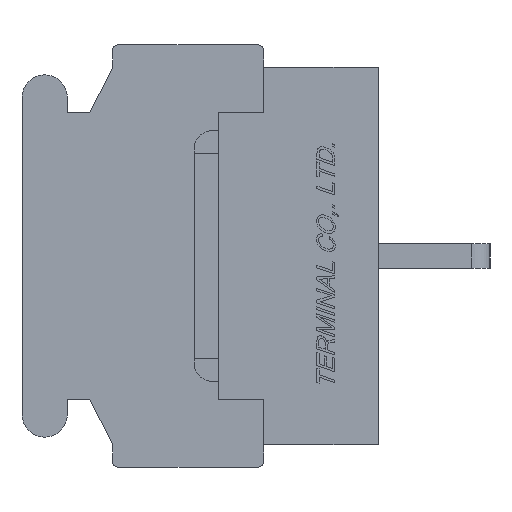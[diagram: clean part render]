
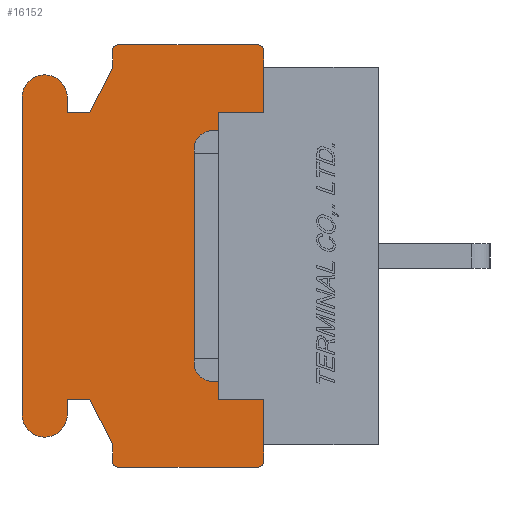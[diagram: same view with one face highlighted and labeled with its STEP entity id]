
A CAD part, left-side view. The second image highlights one B-rep face of the part: STEP entity #16152.
In plain terms, the highlighted planar face has unit normal (-1, 0, 0).
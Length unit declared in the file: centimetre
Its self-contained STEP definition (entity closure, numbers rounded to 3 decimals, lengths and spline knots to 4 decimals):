
#862=PLANE('',#26193);
#1755=VECTOR('',#17614,1.);
#2150=VECTOR('',#18142,1.);
#2153=VECTOR('',#18146,1.);
#2155=VECTOR('',#18149,1.);
#2156=VECTOR('',#18151,1.);
#2157=VECTOR('',#18153,1.);
#2158=VECTOR('',#18156,1.);
#2159=VECTOR('',#18159,1.);
#2160=VECTOR('',#18160,1.);
#2161=VECTOR('',#18161,1.);
#2162=VECTOR('',#18162,1.);
#2163=VECTOR('',#18165,1.);
#2164=VECTOR('',#18168,1.);
#2165=VECTOR('',#18169,1.);
#2166=VECTOR('',#18170,1.);
#2167=VECTOR('',#18171,1.);
#2168=VECTOR('',#18174,1.);
#2169=VECTOR('',#18177,1.);
#3543=LINE('',#21956,#1755);
#3938=LINE('',#23441,#2150);
#3941=LINE('',#23447,#2153);
#3943=LINE('',#23451,#2155);
#3944=LINE('',#23453,#2156);
#3945=LINE('',#23455,#2157);
#3946=LINE('',#23459,#2158);
#3947=LINE('',#23463,#2159);
#3948=LINE('',#23465,#2160);
#3949=LINE('',#23467,#2161);
#3950=LINE('',#23469,#2162);
#3951=LINE('',#23473,#2163);
#3952=LINE('',#23477,#2164);
#3953=LINE('',#23479,#2165);
#3954=LINE('',#23481,#2166);
#3955=LINE('',#23483,#2167);
#3956=LINE('',#23487,#2168);
#3957=LINE('',#23491,#2169);
#5270=VERTEX_POINT('',#21955);
#5271=VERTEX_POINT('',#21957);
#5605=VERTEX_POINT('',#23440);
#5606=VERTEX_POINT('',#23442);
#5607=VERTEX_POINT('',#23446);
#5608=VERTEX_POINT('',#23448);
#5609=VERTEX_POINT('',#23456);
#5610=VERTEX_POINT('',#23458);
#5611=VERTEX_POINT('',#23460);
#5612=VERTEX_POINT('',#23462);
#5613=VERTEX_POINT('',#23464);
#5614=VERTEX_POINT('',#23466);
#5615=VERTEX_POINT('',#23468);
#5616=VERTEX_POINT('',#23470);
#5617=VERTEX_POINT('',#23472);
#5618=VERTEX_POINT('',#23474);
#5619=VERTEX_POINT('',#23476);
#5620=VERTEX_POINT('',#23478);
#5621=VERTEX_POINT('',#23480);
#5622=VERTEX_POINT('',#23482);
#5623=VERTEX_POINT('',#23484);
#5624=VERTEX_POINT('',#23486);
#5625=VERTEX_POINT('',#23488);
#5626=VERTEX_POINT('',#23490);
#6373=CIRCLE('',#26194,0.02);
#6374=CIRCLE('',#26195,0.02);
#6375=CIRCLE('',#26196,0.075);
#6376=CIRCLE('',#26197,0.075);
#6377=CIRCLE('',#26198,0.02);
#6378=CIRCLE('',#26199,0.02);
#7364=EDGE_CURVE('',#5271,#5270,#3543,.T.);
#7865=EDGE_CURVE('',#5606,#5605,#3938,.T.);
#7868=EDGE_CURVE('',#5608,#5607,#3941,.T.);
#7870=EDGE_CURVE('',#5607,#5271,#3943,.T.);
#7871=EDGE_CURVE('',#5270,#5606,#3944,.T.);
#7872=EDGE_CURVE('',#5609,#5605,#3945,.T.);
#7873=EDGE_CURVE('',#5610,#5609,#6373,.T.);
#7874=EDGE_CURVE('',#5611,#5610,#3946,.T.);
#7875=EDGE_CURVE('',#5612,#5611,#6374,.T.);
#7876=EDGE_CURVE('',#5613,#5612,#3947,.T.);
#7877=EDGE_CURVE('',#5614,#5613,#3948,.T.);
#7878=EDGE_CURVE('',#5615,#5614,#3949,.T.);
#7879=EDGE_CURVE('',#5616,#5615,#3950,.T.);
#7880=EDGE_CURVE('',#5617,#5616,#6375,.T.);
#7881=EDGE_CURVE('',#5618,#5617,#3951,.T.);
#7882=EDGE_CURVE('',#5619,#5618,#6376,.T.);
#7883=EDGE_CURVE('',#5620,#5619,#3952,.T.);
#7884=EDGE_CURVE('',#5621,#5620,#3953,.T.);
#7885=EDGE_CURVE('',#5622,#5621,#3954,.T.);
#7886=EDGE_CURVE('',#5623,#5622,#3955,.T.);
#7887=EDGE_CURVE('',#5624,#5623,#6377,.T.);
#7888=EDGE_CURVE('',#5625,#5624,#3956,.T.);
#7889=EDGE_CURVE('',#5626,#5625,#6378,.T.);
#7890=EDGE_CURVE('',#5608,#5626,#3957,.T.);
#11529=ORIENTED_EDGE('',*,*,#7868,.T.);
#11530=ORIENTED_EDGE('',*,*,#7870,.T.);
#11531=ORIENTED_EDGE('',*,*,#7364,.T.);
#11532=ORIENTED_EDGE('',*,*,#7871,.T.);
#11533=ORIENTED_EDGE('',*,*,#7865,.T.);
#11534=ORIENTED_EDGE('',*,*,#7872,.F.);
#11535=ORIENTED_EDGE('',*,*,#7873,.F.);
#11536=ORIENTED_EDGE('',*,*,#7874,.F.);
#11537=ORIENTED_EDGE('',*,*,#7875,.F.);
#11538=ORIENTED_EDGE('',*,*,#7876,.F.);
#11539=ORIENTED_EDGE('',*,*,#7877,.F.);
#11540=ORIENTED_EDGE('',*,*,#7878,.F.);
#11541=ORIENTED_EDGE('',*,*,#7879,.F.);
#11542=ORIENTED_EDGE('',*,*,#7880,.F.);
#11543=ORIENTED_EDGE('',*,*,#7881,.F.);
#11544=ORIENTED_EDGE('',*,*,#7882,.F.);
#11545=ORIENTED_EDGE('',*,*,#7883,.F.);
#11546=ORIENTED_EDGE('',*,*,#7884,.F.);
#11547=ORIENTED_EDGE('',*,*,#7885,.F.);
#11548=ORIENTED_EDGE('',*,*,#7886,.F.);
#11549=ORIENTED_EDGE('',*,*,#7887,.F.);
#11550=ORIENTED_EDGE('',*,*,#7888,.F.);
#11551=ORIENTED_EDGE('',*,*,#7889,.F.);
#11552=ORIENTED_EDGE('',*,*,#7890,.F.);
#14264=EDGE_LOOP('',(#11529,#11530,#11531,#11532,#11533,#11534,#11535,#11536,
#11537,#11538,#11539,#11540,#11541,#11542,#11543,#11544,#11545,#11546,#11547,
#11548,#11549,#11550,#11551,#11552));
#15234=FACE_BOUND('',#14264,.T.);
#16152=ADVANCED_FACE('',(#15234),#862,.F.);
#17614=DIRECTION('',(0.,0.,1.));
#18142=DIRECTION('',(0.,0.,1.));
#18146=DIRECTION('',(0.,0.,1.));
#18149=DIRECTION('',(0.,1.,0.));
#18151=DIRECTION('',(0.,-1.,0.));
#18152=DIRECTION('',(1.,0.,0.));
#18153=DIRECTION('',(0.,0.,-1.));
#18154=DIRECTION('',(1.,0.,0.));
#18155=DIRECTION('',(0.,0.,-0.02));
#18156=DIRECTION('',(0.,-1.,0.));
#18157=DIRECTION('',(1.,0.,0.));
#18158=DIRECTION('',(0.,0.,-0.02));
#18159=DIRECTION('',(0.,0.,1.));
#18160=DIRECTION('',(0.,-0.447,0.894));
#18161=DIRECTION('',(0.,-1.,0.));
#18162=DIRECTION('',(0.,0.,-1.));
#18163=DIRECTION('',(1.,0.,0.));
#18164=DIRECTION('',(0.,0.,-0.075));
#18165=DIRECTION('',(0.,0.,1.));
#18166=DIRECTION('',(1.,0.,0.));
#18167=DIRECTION('',(0.,0.,-0.075));
#18168=DIRECTION('',(0.,0.,-1.));
#18169=DIRECTION('',(0.,1.,0.));
#18170=DIRECTION('',(0.,0.447,0.894));
#18171=DIRECTION('',(0.,0.,1.));
#18172=DIRECTION('',(1.,0.,0.));
#18173=DIRECTION('',(0.,0.,-0.02));
#18174=DIRECTION('',(0.,1.,0.));
#18175=DIRECTION('',(1.,0.,0.));
#18176=DIRECTION('',(0.,0.,-0.02));
#18177=DIRECTION('',(0.,0.,-1.));
#21955=CARTESIAN_POINT('',(-0.762,0.53,0.475));
#21956=CARTESIAN_POINT('',(-0.762,0.53,0.));
#21957=CARTESIAN_POINT('',(-0.762,0.53,-0.475));
#23440=CARTESIAN_POINT('',(-0.762,0.38,0.625));
#23441=CARTESIAN_POINT('',(-0.762,0.38,0.275));
#23442=CARTESIAN_POINT('',(-0.762,0.38,0.475));
#23446=CARTESIAN_POINT('',(-0.762,0.38,-0.475));
#23447=CARTESIAN_POINT('',(-0.762,0.38,-0.275));
#23448=CARTESIAN_POINT('',(-0.762,0.38,-0.625));
#23451=CARTESIAN_POINT('',(-0.762,0.5304,-0.475));
#23453=CARTESIAN_POINT('',(-0.762,0.5304,0.475));
#23454=CARTESIAN_POINT('',(-0.762,0.6059,0.));
#23455=CARTESIAN_POINT('',(-0.762,0.38,0.68));
#23456=CARTESIAN_POINT('',(-0.762,0.38,0.68));
#23457=CARTESIAN_POINT('',(-0.762,0.4,0.68));
#23458=CARTESIAN_POINT('',(-0.762,0.4,0.7));
#23459=CARTESIAN_POINT('',(-0.762,0.86,0.7));
#23460=CARTESIAN_POINT('',(-0.762,0.86,0.7));
#23461=CARTESIAN_POINT('',(-0.762,0.86,0.68));
#23462=CARTESIAN_POINT('',(-0.762,0.88,0.68));
#23463=CARTESIAN_POINT('',(-0.762,0.88,0.625));
#23464=CARTESIAN_POINT('',(-0.762,0.88,0.625));
#23465=CARTESIAN_POINT('',(-0.762,0.955,0.475));
#23466=CARTESIAN_POINT('',(-0.762,0.955,0.475));
#23467=CARTESIAN_POINT('',(-0.762,1.03,0.475));
#23468=CARTESIAN_POINT('',(-0.762,1.03,0.475));
#23469=CARTESIAN_POINT('',(-0.762,1.03,0.525));
#23470=CARTESIAN_POINT('',(-0.762,1.03,0.525));
#23471=CARTESIAN_POINT('',(-0.762,1.105,0.525));
#23472=CARTESIAN_POINT('',(-0.762,1.18,0.525));
#23473=CARTESIAN_POINT('',(-0.762,1.18,-0.525));
#23474=CARTESIAN_POINT('',(-0.762,1.18,-0.525));
#23475=CARTESIAN_POINT('',(-0.762,1.105,-0.525));
#23476=CARTESIAN_POINT('',(-0.762,1.03,-0.525));
#23477=CARTESIAN_POINT('',(-0.762,1.03,-0.475));
#23478=CARTESIAN_POINT('',(-0.762,1.03,-0.475));
#23479=CARTESIAN_POINT('',(-0.762,0.955,-0.475));
#23480=CARTESIAN_POINT('',(-0.762,0.955,-0.475));
#23481=CARTESIAN_POINT('',(-0.762,0.88,-0.625));
#23482=CARTESIAN_POINT('',(-0.762,0.88,-0.625));
#23483=CARTESIAN_POINT('',(-0.762,0.88,-0.68));
#23484=CARTESIAN_POINT('',(-0.762,0.88,-0.68));
#23485=CARTESIAN_POINT('',(-0.762,0.86,-0.68));
#23486=CARTESIAN_POINT('',(-0.762,0.86,-0.7));
#23487=CARTESIAN_POINT('',(-0.762,0.4,-0.7));
#23488=CARTESIAN_POINT('',(-0.762,0.4,-0.7));
#23489=CARTESIAN_POINT('',(-0.762,0.4,-0.68));
#23490=CARTESIAN_POINT('',(-0.762,0.38,-0.68));
#23491=CARTESIAN_POINT('',(-0.762,0.38,-0.625));
#26193=AXIS2_PLACEMENT_3D('',#23454,#18152,$);
#26194=AXIS2_PLACEMENT_3D('',#23457,#18154,#18155);
#26195=AXIS2_PLACEMENT_3D('',#23461,#18157,#18158);
#26196=AXIS2_PLACEMENT_3D('',#23471,#18163,#18164);
#26197=AXIS2_PLACEMENT_3D('',#23475,#18166,#18167);
#26198=AXIS2_PLACEMENT_3D('',#23485,#18172,#18173);
#26199=AXIS2_PLACEMENT_3D('',#23489,#18175,#18176);
